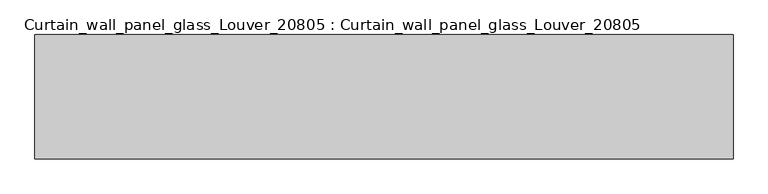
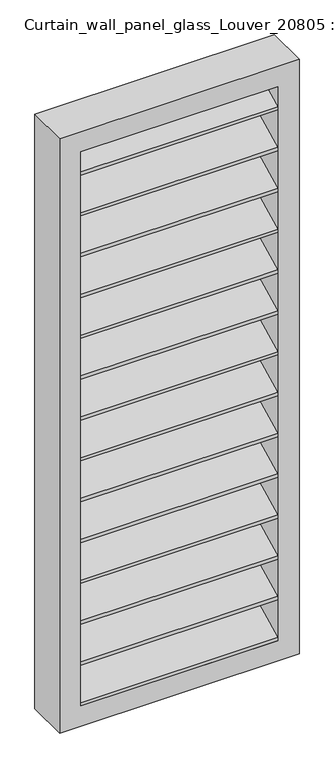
"""IFC4 building model written with IfcOpenShell, lengths in millimetres: plate geometry, Curtain_wall_panel_glass_Louver_20805 : Curtain_wall_panel_glass_Louver_20805."""

from ifc_helpers import new_model, si_unit, frame, origin, place, context, project, spatial, polyline, outline, extrude, source, transform, mapped, element, save


def curtain_wall_panel_glass_louver_20805_curtain_wall_panel_097e2ed9(model_context):
    return source(origin(), model_context, "Body", "SweptSolid", [
        extrude(outline(polyline([(200.0, 199.3849981), (0.0, 100.0), (0.0, 116.7499328), (200.0, 216.1349309), (200.0, 199.3849981)])), frame((-462.2500001, 0.0, 0.0), z_axis=(1.0, 0.0, 0.0), x_axis=(0.0, 1.0, 0.0)), (0.0, 0.0, 1.0), 924.5000001),
        extrude(outline(polyline([(200.0, 2833.2500672), (0.0, 2733.8650691), (0.0, 2750.6150019), (200.0, 2850.0), (200.0, 2833.2500672)])), frame((-462.2500001, 0.0, 0.0), z_axis=(1.0, 0.0, 0.0), x_axis=(0.0, 1.0, 0.0)), (0.0, 0.0, 1.0), 924.5000001),
        extrude(outline(polyline([(200.0, 401.9900034), (0.0, 302.6050053), (0.0, 319.3549382), (200.0, 418.7399363), (200.0, 401.9900034)])), frame((-462.2500001, 0.0, 0.0), z_axis=(1.0, 0.0, 0.0), x_axis=(0.0, 1.0, 0.0)), (0.0, 0.0, 1.0), 924.5000001),
        extrude(outline(polyline([(200.0, 604.5950087), (0.0, 505.2100106), (0.0, 521.9599435), (200.0, 621.3449416), (200.0, 604.5950087)])), frame((-462.2500001, 0.0, 0.0), z_axis=(1.0, 0.0, 0.0), x_axis=(0.0, 1.0, 0.0)), (0.0, 0.0, 1.0), 924.5000001),
        extrude(outline(polyline([(200.0, 807.200014), (0.0, 707.8150159), (0.0, 724.5649488), (200.0, 823.9499469), (200.0, 807.200014)])), frame((-462.2500001, 0.0, 0.0), z_axis=(1.0, 0.0, 0.0), x_axis=(0.0, 1.0, 0.0)), (0.0, 0.0, 1.0), 924.5000001),
        extrude(outline(polyline([(200.0, 1009.8050193), (0.0, 910.4200212), (0.0, 927.1699541), (200.0, 1026.5549522), (200.0, 1009.8050193)])), frame((-462.2500001, 0.0, 0.0), z_axis=(1.0, 0.0, 0.0), x_axis=(0.0, 1.0, 0.0)), (0.0, 0.0, 1.0), 924.5000001),
        extrude(outline(polyline([(200.0, 1212.4100247), (0.0, 1113.0250266), (0.0, 1129.7749594), (200.0, 1229.1599575), (200.0, 1212.4100247)])), frame((-462.2500001, 0.0, 0.0), z_axis=(1.0, 0.0, 0.0), x_axis=(0.0, 1.0, 0.0)), (0.0, 0.0, 1.0), 924.5000001),
        extrude(outline(polyline([(200.0, 1415.01503), (0.0, 1315.6300319), (0.0, 1332.3799647), (200.0, 1431.7649628), (200.0, 1415.01503)])), frame((-462.2500001, 0.0, 0.0), z_axis=(1.0, 0.0, 0.0), x_axis=(0.0, 1.0, 0.0)), (0.0, 0.0, 1.0), 924.5000001),
        extrude(outline(polyline([(200.0, 1617.6200353), (0.0, 1518.2350372), (0.0, 1534.98497), (200.0, 1634.3699681), (200.0, 1617.6200353)])), frame((-462.2500001, 0.0, 0.0), z_axis=(1.0, 0.0, 0.0), x_axis=(0.0, 1.0, 0.0)), (0.0, 0.0, 1.0), 924.5000001),
        extrude(outline(polyline([(200.0, 1820.2250406), (0.0, 1720.8400425), (0.0, 1737.5899753), (200.0, 1836.9749734), (200.0, 1820.2250406)])), frame((-462.2500001, 0.0, 0.0), z_axis=(1.0, 0.0, 0.0), x_axis=(0.0, 1.0, 0.0)), (0.0, 0.0, 1.0), 924.5000001),
        extrude(outline(polyline([(200.0, 2022.8300459), (0.0, 1923.4450478), (0.0, 1940.1949807), (200.0, 2039.5799788), (200.0, 2022.8300459)])), frame((-462.2500001, 0.0, 0.0), z_axis=(1.0, 0.0, 0.0), x_axis=(0.0, 1.0, 0.0)), (0.0, 0.0, 1.0), 924.5000001),
        extrude(outline(polyline([(200.0, 2225.4350512), (0.0, 2126.0500531), (0.0, 2142.799986), (200.0, 2242.1849841), (200.0, 2225.4350512)])), frame((-462.2500001, 0.0, 0.0), z_axis=(1.0, 0.0, 0.0), x_axis=(0.0, 1.0, 0.0)), (0.0, 0.0, 1.0), 924.5000001),
        extrude(outline(polyline([(200.0, 2428.0400565), (0.0, 2328.6550584), (0.0, 2345.4049913), (200.0, 2444.7899894), (200.0, 2428.0400565)])), frame((-462.2500001, 0.0, 0.0), z_axis=(1.0, 0.0, 0.0), x_axis=(0.0, 1.0, 0.0)), (0.0, 0.0, 1.0), 924.5000001),
        extrude(outline(polyline([(200.0, 2630.6450618), (0.0, 2531.2600637), (0.0, 2548.0099966), (200.0, 2647.3949947), (200.0, 2630.6450618)])), frame((-462.2500001, 0.0, 0.0), z_axis=(1.0, 0.0, 0.0), x_axis=(0.0, 1.0, 0.0)), (0.0, 0.0, 1.0), 924.5000001),
        extrude(outline(polyline([(2950.0, -562.2500001), (0.0, -562.2500001), (0.0, 562.2500001), (2950.0, 562.2500001), (2950.0, -562.2500001)]), holes=[polyline([(2850.0, -462.2500001), (2850.0, 462.2500001), (100.0, 462.2500001), (100.0, -462.2500001), (2850.0, -462.2500001)])]), frame((0.0, 0.0, 0.0), z_axis=(0.0, 1.0, 0.0), x_axis=(0.0, 0.0, 1.0)), (0.0, 0.0, 1.0), 200.0),
    ])


if __name__ == "__main__":
    model = new_model("IFC4")
    model_context = context("Model", 3, world=origin())
    ifc_project = project(units=[si_unit("LENGTHUNIT", "METRE", prefix="MILLI")], contexts=[model_context])
    site = spatial("IfcSite", under=ifc_project)
    building = spatial("IfcBuilding", under=site)
    placement = place(None, origin())
    curtain_wall_panel_glass_louver_20805_curtain_wall_panel_shape = curtain_wall_panel_glass_louver_20805_curtain_wall_panel_097e2ed9(model_context)
    element("IfcPlate", 1, ObjectType="Curtain_wall_panel_glass_Louver_20805 : Curtain_wall_panel_glass_Louver_20805", at=placement, inside=building, context=model_context, shape_type="MappedRepresentation", body=[
        mapped(curtain_wall_panel_glass_louver_20805_curtain_wall_panel_shape, transform((0.0, 0.0, 0.0), x_axis=(1.0, 0.0, 0.0), y_axis=(0.0, 1.0, 0.0), z_axis=(0.0, 0.0, 1.0))),
    ])
    save(model, "model.ifc")
